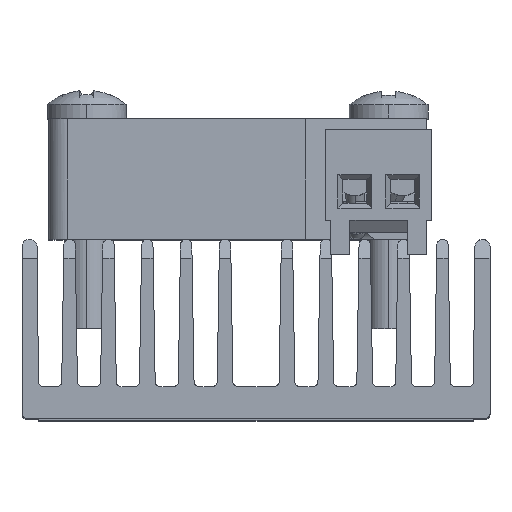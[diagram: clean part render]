
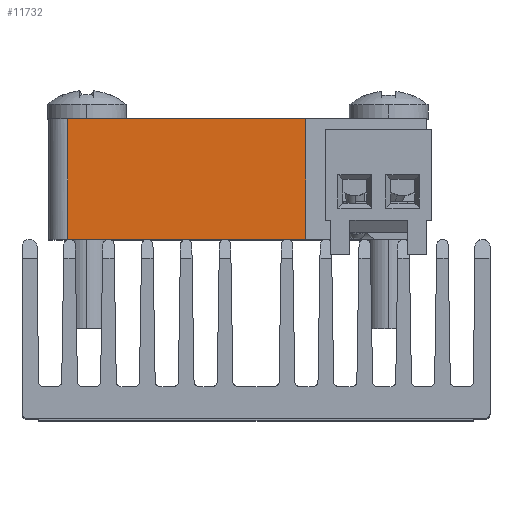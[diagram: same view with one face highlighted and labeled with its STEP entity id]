
A CAD part, top view. The second image highlights one B-rep face of the part: STEP entity #11732.
In plain terms, the highlighted planar face has unit normal (0, 0, 1).
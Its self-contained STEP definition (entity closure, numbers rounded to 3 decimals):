
#439 = ORIENTED_EDGE ( 'NONE', *, *, #8668, .F. ) ;
#1020 = DIRECTION ( 'NONE',  ( 1., 0., 0. ) ) ;
#1787 = LINE ( 'NONE', #10002, #18364 ) ;
#2516 = CARTESIAN_POINT ( 'NONE',  ( -6.248, 12.356, 10.509 ) ) ;
#3547 = ORIENTED_EDGE ( 'NONE', *, *, #17469, .F. ) ;
#3804 = ORIENTED_EDGE ( 'NONE', *, *, #11967, .F. ) ;
#4241 = FACE_OUTER_BOUND ( 'NONE', #5576, .T. ) ;
#4534 = DIRECTION ( 'NONE',  ( 0., -1., 0. ) ) ;
#5548 = DIRECTION ( 'NONE',  ( 0., 1., 0. ) ) ;
#5576 = EDGE_LOOP ( 'NONE', ( #3547, #439, #9495, #3804 ) ) ;
#5628 = VERTEX_POINT ( 'NONE', #6925 ) ;
#5693 = VERTEX_POINT ( 'NONE', #14850 ) ;
#6925 = CARTESIAN_POINT ( 'NONE',  ( 6.352, 5.856, 10.509 ) ) ;
#7941 = CARTESIAN_POINT ( 'NONE',  ( 12.752, 12.256, 10.509 ) ) ;
#8668 = EDGE_CURVE ( 'NONE', #13146, #5693, #12969, .T. ) ;
#9431 = LINE ( 'NONE', #9796, #18032 ) ;
#9495 = ORIENTED_EDGE ( 'NONE', *, *, #12552, .F. ) ;
#9569 = VERTEX_POINT ( 'NONE', #10518 ) ;
#9796 = CARTESIAN_POINT ( 'NONE',  ( 6.352, 12.356, 10.509 ) ) ;
#10002 = CARTESIAN_POINT ( 'NONE',  ( 2.752, 5.856, 10.509 ) ) ;
#10510 = VECTOR ( 'NONE', #1020, 1000. ) ;
#10518 = CARTESIAN_POINT ( 'NONE',  ( 6.352, 12.256, 10.509 ) ) ;
#11413 = CARTESIAN_POINT ( 'NONE',  ( 12.752, 12.356, 10.509 ) ) ;
#11732 = ADVANCED_FACE ( 'NONE', ( #4241 ), #17306, .F. ) ;
#11967 = EDGE_CURVE ( 'NONE', #9569, #5628, #9431, .T. ) ;
#12450 = LINE ( 'NONE', #7941, #10510 ) ;
#12480 = CARTESIAN_POINT ( 'NONE',  ( -6.248, 5.856, 10.509 ) ) ;
#12552 = EDGE_CURVE ( 'NONE', #5628, #13146, #1787, .T. ) ;
#12820 = AXIS2_PLACEMENT_3D ( 'NONE', #11413, #13015, #4534 ) ;
#12969 = LINE ( 'NONE', #2516, #16892 ) ;
#13015 = DIRECTION ( 'NONE',  ( 0., 0., -1. ) ) ;
#13146 = VERTEX_POINT ( 'NONE', #12480 ) ;
#14850 = CARTESIAN_POINT ( 'NONE',  ( -6.248, 12.256, 10.509 ) ) ;
#15485 = DIRECTION ( 'NONE',  ( 0., -1., 0. ) ) ;
#16175 = DIRECTION ( 'NONE',  ( -1., 0., 0. ) ) ;
#16892 = VECTOR ( 'NONE', #5548, 1000. ) ;
#17306 = PLANE ( 'NONE',  #12820 ) ;
#17469 = EDGE_CURVE ( 'NONE', #5693, #9569, #12450, .T. ) ;
#18032 = VECTOR ( 'NONE', #15485, 1000. ) ;
#18364 = VECTOR ( 'NONE', #16175, 1000. ) ;
